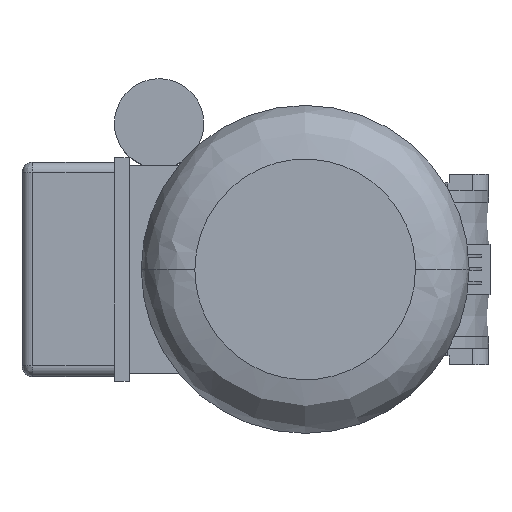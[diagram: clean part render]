
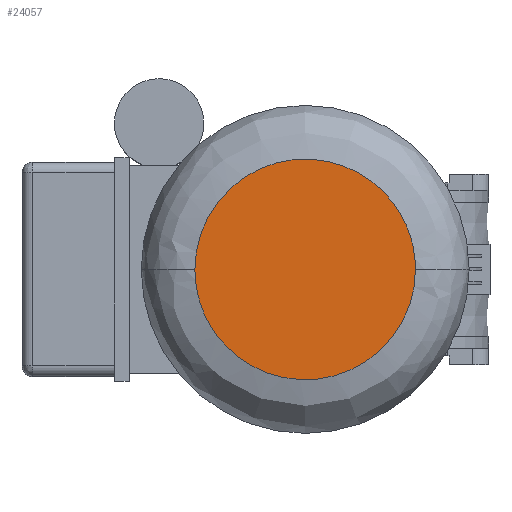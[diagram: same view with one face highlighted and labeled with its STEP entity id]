
A CAD part, left-side view. The second image highlights one B-rep face of the part: STEP entity #24057.
In plain terms, the highlighted planar face has unit normal (-1, 0, 0) as drawn and (0, 0, -1) by its records, which use the part's own axes.
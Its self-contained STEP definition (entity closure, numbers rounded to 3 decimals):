
#157 = CARTESIAN_POINT ( 'NONE',  ( 0., -37., -146. ) ) ;
#429 = CARTESIAN_POINT ( 'NONE',  ( 0., 37., -146. ) ) ;
#488 = CARTESIAN_POINT ( 'NONE',  ( -74., 37., -146. ) ) ;
#588 = CARTESIAN_POINT ( 'NONE',  ( -74., -37., -146. ) ) ;
#2938 = CARTESIAN_POINT ( 'NONE',  ( 0., -37., -146. ) ) ;
#3137 = VERTEX_POINT ( 'NONE', #25277 ) ;
#4027 = DIRECTION ( 'NONE',  ( 0., 0., -1. ) ) ;
#4218 = PLANE ( 'NONE',  #11075 ) ;
#6499 = CARTESIAN_POINT ( 'NONE',  ( 0., 0., -146. ) ) ;
#9194 = CARTESIAN_POINT ( 'NONE',  ( 0., 37., -146. ) ) ;
#9728 = ORIENTED_EDGE ( 'NONE', *, *, #19046, .F. ) ;
#10460 = EDGE_CURVE ( 'NONE', #3137, #12631, #25700, .T. ) ;
#11075 = AXIS2_PLACEMENT_3D ( 'NONE', #6499, #4027, #12647 ) ;
#11194 = CARTESIAN_POINT ( 'NONE',  ( 0., -37., -146. ) ) ;
#12631 = VERTEX_POINT ( 'NONE', #11194 ) ;
#12647 = DIRECTION ( 'NONE',  ( 0., 1., 0. ) ) ;
#17843 = EDGE_LOOP ( 'NONE', ( #22590, #9728 ) ) ;
#19046 = EDGE_CURVE ( 'NONE', #12631, #3137, #22808, .T. ) ;
#19934 = CARTESIAN_POINT ( 'NONE',  ( 74., 37., -146. ) ) ;
#22590 = ORIENTED_EDGE ( 'NONE', *, *, #10460, .F. ) ;
#22772 = FACE_OUTER_BOUND ( 'NONE', #17843, .T. ) ;
#22808 =( BOUNDED_CURVE ( )  B_SPLINE_CURVE ( 3, ( #157, #26147, #19934, #429 ),
 .UNSPECIFIED., .F., .F. ) 
 B_SPLINE_CURVE_WITH_KNOTS ( ( 4, 4 ),
 ( 0.5, 1. ),
 .UNSPECIFIED. ) 
 CURVE ( )  GEOMETRIC_REPRESENTATION_ITEM ( )  RATIONAL_B_SPLINE_CURVE ( ( 1., 0.333, 0.333, 1. ) ) 
 REPRESENTATION_ITEM ( '' )  );
#24057 = ADVANCED_FACE ( 'NONE', ( #22772 ), #4218, .T. ) ;
#25277 = CARTESIAN_POINT ( 'NONE',  ( 0., 37., -146. ) ) ;
#25700 =( BOUNDED_CURVE ( )  B_SPLINE_CURVE ( 3, ( #9194, #488, #588, #2938 ),
 .UNSPECIFIED., .F., .F. ) 
 B_SPLINE_CURVE_WITH_KNOTS ( ( 4, 4 ),
 ( 0., 0.5 ),
 .UNSPECIFIED. ) 
 CURVE ( )  GEOMETRIC_REPRESENTATION_ITEM ( )  RATIONAL_B_SPLINE_CURVE ( ( 1., 0.333, 0.333, 1. ) ) 
 REPRESENTATION_ITEM ( '' )  );
#26147 = CARTESIAN_POINT ( 'NONE',  ( 74., -37., -146. ) ) ;
